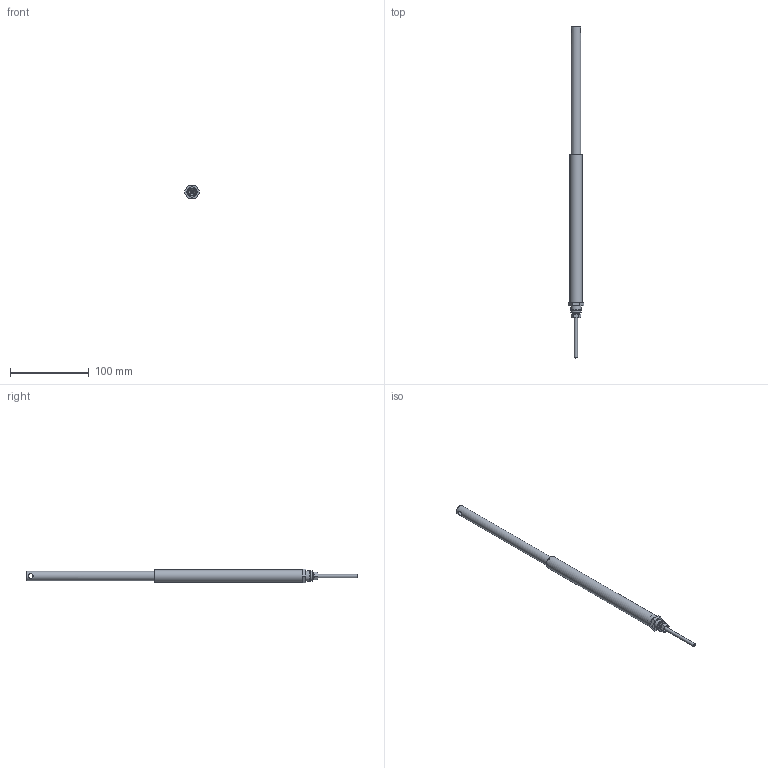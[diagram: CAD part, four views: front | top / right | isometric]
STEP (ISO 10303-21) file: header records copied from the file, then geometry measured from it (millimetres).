
FILE_DESCRIPTION(/* description */ ('Unknown'),/* implementation_level */ '2;1');
FILE_NAME(/* name */ '107.00161 Zylinder CI 1415_ausgefahren',/* time_stamp */ '2018-07-06T17:41:54+02:00',/* author */ ('Unknown'),/* organization */ ('Unknown'),/* preprocessor_version */ 'ST-DEVELOPER v16.7',/* originating_system */ 'DEX',/* authorisation */ $);
FILE_SCHEMA (('AUTOMOTIVE_DESIGN {1 0 10303 214 3 1 1}'));
Length unit declared in the file: millimetre
Products named in the file (9): 107.00161; 121.00001; 142.00021; 125.00021; 115.00007_oa_0; 125.00031; 120.00001; 122.00001; 113.00002_70mm
Assembly tree (8 placements, depth 2):
  107.00161
    121.00001
    142.00021
    125.00021
    115.00007_oa_0
    125.00031
    120.00001
    122.00001
    113.00002_70mm
Bounding box: 19.63 x 421 x 17 mm (x, y, z)
Volume: 33557.7 mm3; surface area: 30407 mm2
Topology: 7 solids, 7 shells, 88 faces, 175 edges, 112 vertices
Faces by surface type: plane 37, cylinder 27, cone 21, torus 2, sphere 1
Full cylindrical faces by diameter (mm): 2.2 x1, 3.5 x1, 4 x1, 4.1 x1, 4.2 x1, 6 x1, 6.917 x2, 7.763 x2, 8 x3, 8.1 x3, 9 x1, 12 x2, 12.5 x1, 13 x2, 13.9 x2, 14 x2, 16 x1
Entity records: 2630 total; most frequent: CARTESIAN_POINT 394, DIRECTION 372, ORIENTED_EDGE 242, AXIS2_PLACEMENT_3D 168, FACE_BOUND 157, EDGE_LOOP 156, EDGE_CURVE 121, VERTEX_POINT 104
